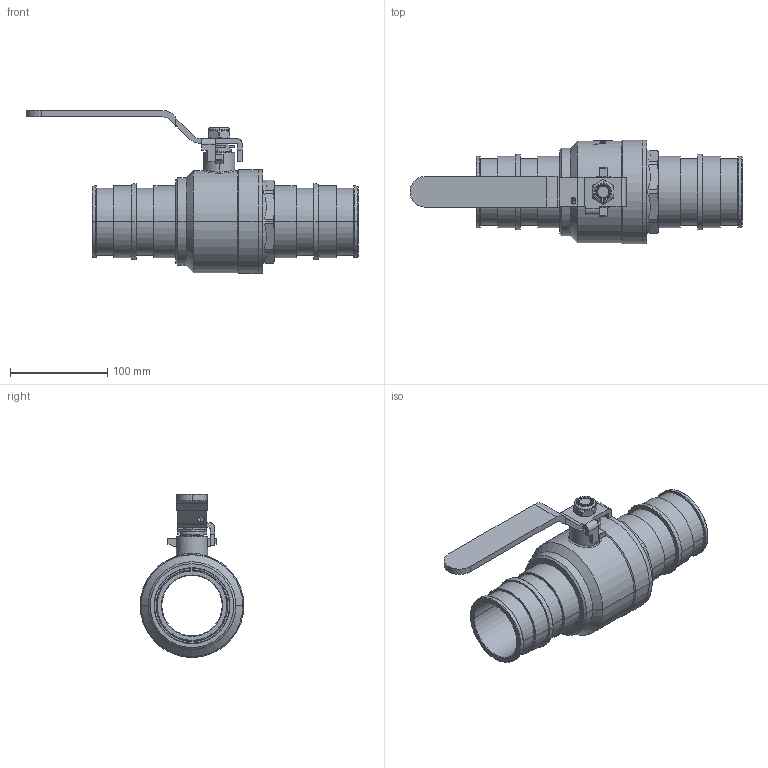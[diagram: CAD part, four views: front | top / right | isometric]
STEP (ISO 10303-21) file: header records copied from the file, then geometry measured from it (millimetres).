
FILE_DESCRIPTION(('Open CASCADE Model'),'2;1');
FILE_NAME('Open CASCADE Shape Model','2021-12-30T09:27:35',('Author'),( 'Open CASCADE'),'Open CASCADE STEP processor 7.3','Open CASCADE 7.3' ,'Unknown');
FILE_SCHEMA(('AUTOMOTIVE_DESIGN { 1 0 10303 214 1 1 1 1 }'));
Length unit declared in the file: millimetre
Products named in the file (12): Open CASCADE STEP translator 7.3 1; Open CASCADE STEP translator 7.3 1.1; Open CASCADE STEP translator 7.3 1.2; Open CASCADE STEP translator 7.3 1.3; Open CASCADE STEP translator 7.3 1.4; Open CASCADE STEP translator 7.3 1.5; Open CASCADE STEP translator 7.3 1.6; Open CASCADE STEP translator 7.3 1.7; Open CASCADE STEP translator 7.3 1.8; Open CASCADE STEP translator 7.3 1.9; Open CASCADE STEP translator 7.3 1.10; Open CASCADE STEP translator 7.3 1.11
Assembly tree (11 placements, depth 2):
  Open CASCADE STEP translator 7.3 1
    Open CASCADE STEP translator 7.3 1.1
    Open CASCADE STEP translator 7.3 1.2
    Open CASCADE STEP translator 7.3 1.3
    Open CASCADE STEP translator 7.3 1.4
    Open CASCADE STEP translator 7.3 1.5
    Open CASCADE STEP translator 7.3 1.6
    Open CASCADE STEP translator 7.3 1.7
    Open CASCADE STEP translator 7.3 1.8
    Open CASCADE STEP translator 7.3 1.9
    Open CASCADE STEP translator 7.3 1.10
    Open CASCADE STEP translator 7.3 1.11
Bounding box: 340.8 x 106.5 x 167.35 mm (x, y, z)
Volume: 547940.8 mm3; surface area: 280494.3 mm2
Topology: 11 solids, 12 shells, 646 faces, 1655 edges, 1062 vertices
Faces by surface type: cylinder 214, plane 185, bspline 103, cone 100, torus 36, sphere 8
Entity records: 107703 total; most frequent: CARTESIAN_POINT 77668, DIRECTION 4704, ORIENTED_EDGE 3302, PCURVE 3302, DEFINITIONAL_REPRESENTATION 3302, LINE 2356, VECTOR 2356, EDGE_CURVE 1651
